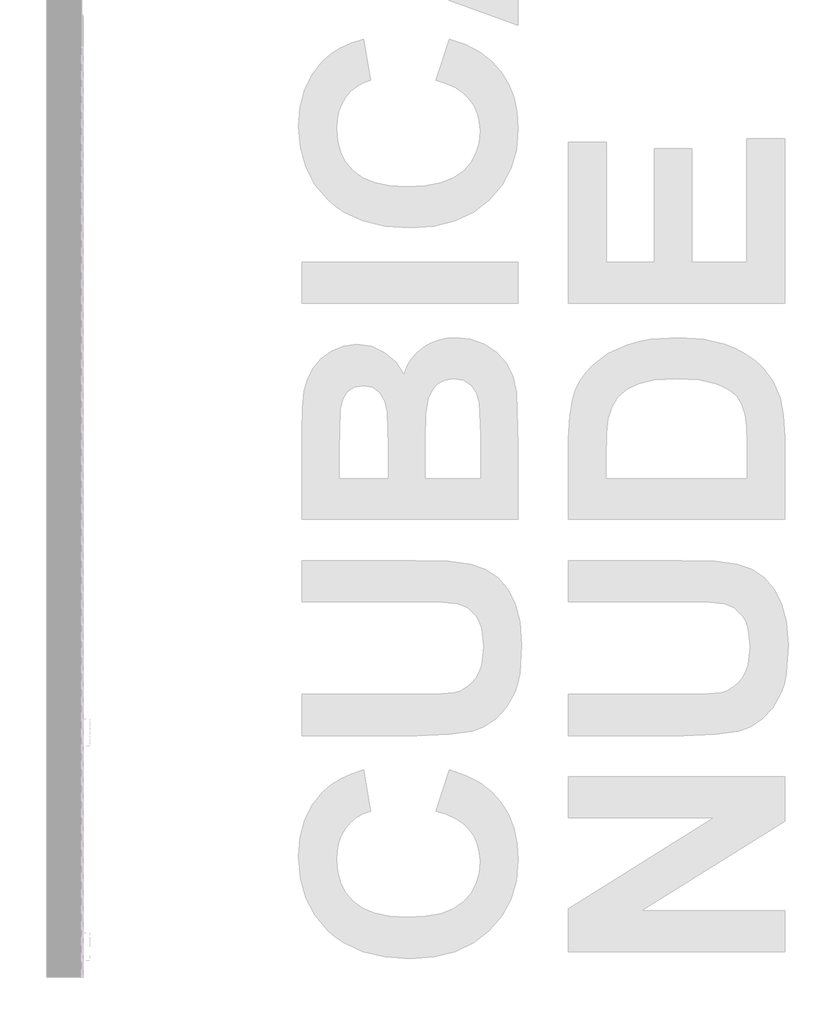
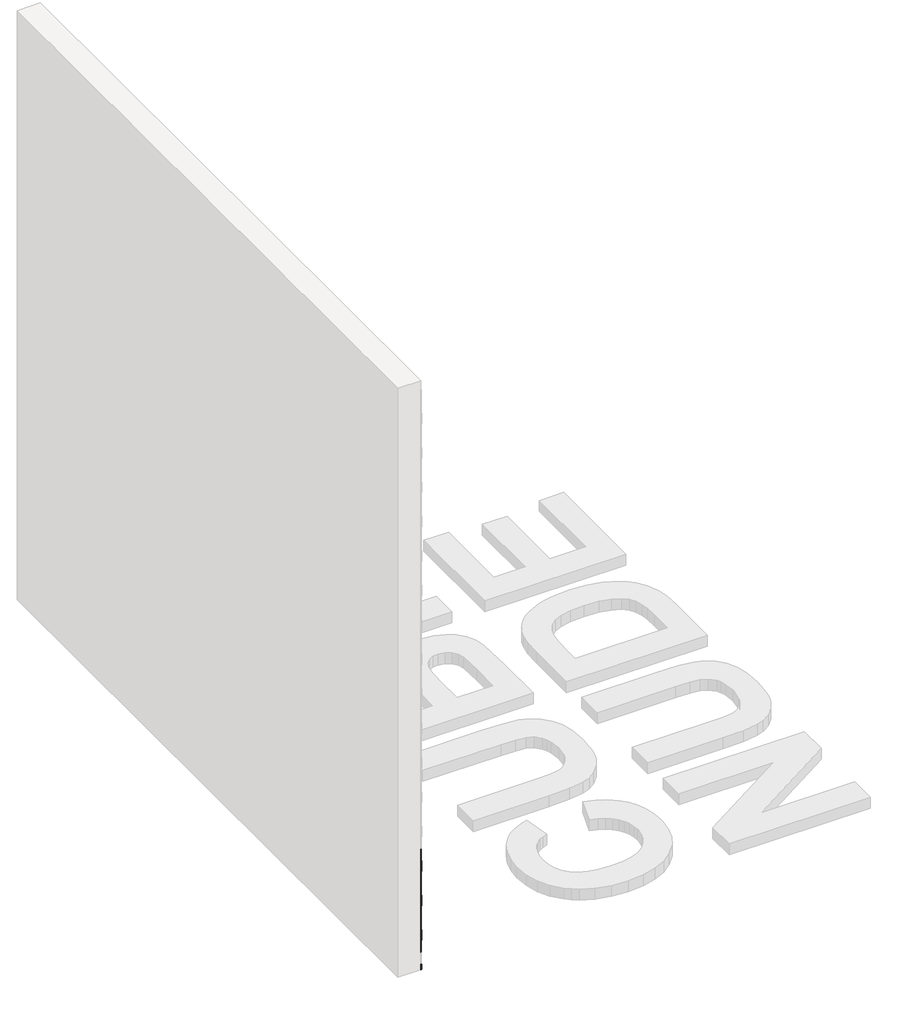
# One storey, part 49 of 121: 144 proxies.
"""IFC4 building model written with IfcOpenShell, lengths in millimetres."""

from ifc_helpers import new_model, si_unit, origin, place, context, project, spatial, transform, mapped, element, save
from components import generic_models_b2b2c5c1, generic_models_9bf73f6f, generic_models_5d175859, generic_models_95f85f1d, generic_models_021229c9, generic_models_45888c4d

model = new_model("IFC4")

# Units and contexts
model_context = context("Model", 3, world=origin())
ifc_project = project(units=[si_unit("LENGTHUNIT", "METRE", prefix="MILLI")], contexts=[model_context])

# Site, building, storey
site = spatial("IfcSite", under=ifc_project)
building = spatial("IfcBuilding", under=site)
storey = spatial("IfcBuildingStorey", under=building, Name="PORTOBELLO - SHOWROOM", Elevation=0.0)

# Proxies
placement = place(None, origin())
generic_models_shape = generic_models_b2b2c5c1(model_context)
element("IfcBuildingElementProxy", 1, Name="PBSHOP - CUBICA NUDE 4,8X8,3 : CUBICA NUDE - POSIÇÃO 01", ObjectType="PBSHOP - CUBICA NUDE 4,8X8,3 : CUBICA NUDE - POSIÇÃO 01", at=placement, inside=storey, context=model_context, shape_type="MappedRepresentation", body=[
    mapped(generic_models_shape, transform((150369.5341846, 6441.9673802, 118.3568052), x_axis=(0.0, 1.0, 0.0), y_axis=(0.0, 0.0, 1.0), z_axis=(1.0, 0.0, 0.0))),
])
element("IfcBuildingElementProxy", 2, Name="PBSHOP - CUBICA NUDE 4,8X8,3 : CUBICA NUDE - POSIÇÃO 01", ObjectType="PBSHOP - CUBICA NUDE 4,8X8,3 : CUBICA NUDE - POSIÇÃO 01", at=placement, inside=storey, context=model_context, shape_type="MappedRepresentation", body=[
    mapped(generic_models_shape, transform((150369.5341846, 6532.8066494, 118.3568052), x_axis=(0.0, 1.0, 0.0), y_axis=(0.0, 0.0, 1.0), z_axis=(1.0, 0.0, 0.0))),
])
element("IfcBuildingElementProxy", 3, Name="PBSHOP - CUBICA NUDE 4,8X8,3 : CUBICA NUDE - POSIÇÃO 01", ObjectType="PBSHOP - CUBICA NUDE 4,8X8,3 : CUBICA NUDE - POSIÇÃO 01", at=placement, inside=storey, context=model_context, shape_type="MappedRepresentation", body=[
    mapped(generic_models_shape, transform((150369.5341846, 6623.6459187, 118.3568052), x_axis=(0.0, 1.0, 0.0), y_axis=(0.0, 0.0, 1.0), z_axis=(1.0, 0.0, 0.0))),
])
element("IfcBuildingElementProxy", 4, Name="PBSHOP - CUBICA NUDE 4,8X8,3 : CUBICA NUDE - POSIÇÃO 01", ObjectType="PBSHOP - CUBICA NUDE 4,8X8,3 : CUBICA NUDE - POSIÇÃO 01", at=placement, inside=storey, context=model_context, shape_type="MappedRepresentation", body=[
    mapped(generic_models_shape, transform((150369.5341846, 6714.4851879, 118.3568052), x_axis=(0.0, 1.0, 0.0), y_axis=(0.0, 0.0, 1.0), z_axis=(1.0, 0.0, 0.0))),
])
element("IfcBuildingElementProxy", 5, Name="PBSHOP - CUBICA NUDE 4,8X8,3 : CUBICA NUDE - POSIÇÃO 01", ObjectType="PBSHOP - CUBICA NUDE 4,8X8,3 : CUBICA NUDE - POSIÇÃO 01", at=placement, inside=storey, context=model_context, shape_type="MappedRepresentation", body=[
    mapped(generic_models_shape, transform((150369.5341846, 6805.3244572, 118.3568052), x_axis=(0.0, 1.0, 0.0), y_axis=(0.0, 0.0, 1.0), z_axis=(1.0, 0.0, 0.0))),
])
element("IfcBuildingElementProxy", 6, Name="PBSHOP - CUBICA NUDE 4,8X8,3 : CUBICA NUDE - POSIÇÃO 01", ObjectType="PBSHOP - CUBICA NUDE 4,8X8,3 : CUBICA NUDE - POSIÇÃO 01", at=placement, inside=storey, context=model_context, shape_type="MappedRepresentation", body=[
    mapped(generic_models_shape, transform((150369.5341846, 6896.1637264, 118.3568052), x_axis=(0.0, 1.0, 0.0), y_axis=(0.0, 0.0, 1.0), z_axis=(1.0, 0.0, 0.0))),
])
element("IfcBuildingElementProxy", 7, Name="PBSHOP - CUBICA NUDE 4,8X8,3 : CUBICA NUDE - POSIÇÃO 01", ObjectType="PBSHOP - CUBICA NUDE 4,8X8,3 : CUBICA NUDE - POSIÇÃO 01", at=placement, inside=storey, context=model_context, shape_type="MappedRepresentation", body=[
    mapped(generic_models_shape, transform((150369.5341846, 6987.0029957, 118.3568052), x_axis=(0.0, 1.0, 0.0), y_axis=(0.0, 0.0, 1.0), z_axis=(1.0, 0.0, 0.0))),
])
element("IfcBuildingElementProxy", 8, Name="PBSHOP - CUBICA NUDE 4,8X8,3 : CUBICA NUDE - POSIÇÃO 01", ObjectType="PBSHOP - CUBICA NUDE 4,8X8,3 : CUBICA NUDE - POSIÇÃO 01", at=placement, inside=storey, context=model_context, shape_type="MappedRepresentation", body=[
    mapped(generic_models_shape, transform((150369.5341846, 6396.5477456, 197.2914436), x_axis=(0.0, 1.0, 0.0), y_axis=(0.0, 0.0, 1.0), z_axis=(1.0, 0.0, 0.0))),
])
element("IfcBuildingElementProxy", 9, Name="PBSHOP - CUBICA NUDE 4,8X8,3 : CUBICA NUDE - POSIÇÃO 01", ObjectType="PBSHOP - CUBICA NUDE 4,8X8,3 : CUBICA NUDE - POSIÇÃO 01", at=placement, inside=storey, context=model_context, shape_type="MappedRepresentation", body=[
    mapped(generic_models_shape, transform((150369.5341846, 6487.3870148, 197.2914436), x_axis=(0.0, 1.0, 0.0), y_axis=(0.0, 0.0, 1.0), z_axis=(1.0, 0.0, 0.0))),
])
element("IfcBuildingElementProxy", 10, Name="PBSHOP - CUBICA NUDE 4,8X8,3 : CUBICA NUDE - POSIÇÃO 01", ObjectType="PBSHOP - CUBICA NUDE 4,8X8,3 : CUBICA NUDE - POSIÇÃO 01", at=placement, inside=storey, context=model_context, shape_type="MappedRepresentation", body=[
    mapped(generic_models_shape, transform((150369.5341846, 6578.2262841, 197.2914436), x_axis=(0.0, 1.0, 0.0), y_axis=(0.0, 0.0, 1.0), z_axis=(1.0, 0.0, 0.0))),
])
element("IfcBuildingElementProxy", 11, Name="PBSHOP - CUBICA NUDE 4,8X8,3 : CUBICA NUDE - POSIÇÃO 01", ObjectType="PBSHOP - CUBICA NUDE 4,8X8,3 : CUBICA NUDE - POSIÇÃO 01", at=placement, inside=storey, context=model_context, shape_type="MappedRepresentation", body=[
    mapped(generic_models_shape, transform((150369.5341846, 6669.0655533, 197.2914436), x_axis=(0.0, 1.0, 0.0), y_axis=(0.0, 0.0, 1.0), z_axis=(1.0, 0.0, 0.0))),
])
element("IfcBuildingElementProxy", 12, Name="PBSHOP - CUBICA NUDE 4,8X8,3 : CUBICA NUDE - POSIÇÃO 01", ObjectType="PBSHOP - CUBICA NUDE 4,8X8,3 : CUBICA NUDE - POSIÇÃO 01", at=placement, inside=storey, context=model_context, shape_type="MappedRepresentation", body=[
    mapped(generic_models_shape, transform((150369.5341846, 6759.9048225, 197.2914436), x_axis=(0.0, 1.0, 0.0), y_axis=(0.0, 0.0, 1.0), z_axis=(1.0, 0.0, 0.0))),
])
element("IfcBuildingElementProxy", 13, Name="PBSHOP - CUBICA NUDE 4,8X8,3 : CUBICA NUDE - POSIÇÃO 01", ObjectType="PBSHOP - CUBICA NUDE 4,8X8,3 : CUBICA NUDE - POSIÇÃO 01", at=placement, inside=storey, context=model_context, shape_type="MappedRepresentation", body=[
    mapped(generic_models_shape, transform((150369.5341846, 6850.7440918, 197.2914436), x_axis=(0.0, 1.0, 0.0), y_axis=(0.0, 0.0, 1.0), z_axis=(1.0, 0.0, 0.0))),
])
element("IfcBuildingElementProxy", 14, Name="PBSHOP - CUBICA NUDE 4,8X8,3 : CUBICA NUDE - POSIÇÃO 01", ObjectType="PBSHOP - CUBICA NUDE 4,8X8,3 : CUBICA NUDE - POSIÇÃO 01", at=placement, inside=storey, context=model_context, shape_type="MappedRepresentation", body=[
    mapped(generic_models_shape, transform((150369.5341846, 6941.583361, 197.2914436), x_axis=(0.0, 1.0, 0.0), y_axis=(0.0, 0.0, 1.0), z_axis=(1.0, 0.0, 0.0))),
])
element("IfcBuildingElementProxy", 15, Name="PBSHOP - CUBICA NUDE 4,8X8,3 : CUBICA NUDE - POSIÇÃO 01", ObjectType="PBSHOP - CUBICA NUDE 4,8X8,3 : CUBICA NUDE - POSIÇÃO 01", at=placement, inside=storey, context=model_context, shape_type="MappedRepresentation", body=[
    mapped(generic_models_shape, transform((150369.5341846, 6441.9673802, 276.2260819), x_axis=(0.0, 1.0, 0.0), y_axis=(0.0, 0.0, 1.0), z_axis=(1.0, 0.0, 0.0))),
])
element("IfcBuildingElementProxy", 16, Name="PBSHOP - CUBICA NUDE 4,8X8,3 : CUBICA NUDE - POSIÇÃO 01", ObjectType="PBSHOP - CUBICA NUDE 4,8X8,3 : CUBICA NUDE - POSIÇÃO 01", at=placement, inside=storey, context=model_context, shape_type="MappedRepresentation", body=[
    mapped(generic_models_shape, transform((150369.5341846, 6532.8066494, 276.2260819), x_axis=(0.0, 1.0, 0.0), y_axis=(0.0, 0.0, 1.0), z_axis=(1.0, 0.0, 0.0))),
])
element("IfcBuildingElementProxy", 17, Name="PBSHOP - CUBICA NUDE 4,8X8,3 : CUBICA NUDE - POSIÇÃO 01", ObjectType="PBSHOP - CUBICA NUDE 4,8X8,3 : CUBICA NUDE - POSIÇÃO 01", at=placement, inside=storey, context=model_context, shape_type="MappedRepresentation", body=[
    mapped(generic_models_shape, transform((150369.5341846, 6623.6459187, 276.2260819), x_axis=(0.0, 1.0, 0.0), y_axis=(0.0, 0.0, 1.0), z_axis=(1.0, 0.0, 0.0))),
])
element("IfcBuildingElementProxy", 18, Name="PBSHOP - CUBICA NUDE 4,8X8,3 : CUBICA NUDE - POSIÇÃO 01", ObjectType="PBSHOP - CUBICA NUDE 4,8X8,3 : CUBICA NUDE - POSIÇÃO 01", at=placement, inside=storey, context=model_context, shape_type="MappedRepresentation", body=[
    mapped(generic_models_shape, transform((150369.5341846, 6714.4851879, 276.2260819), x_axis=(0.0, 1.0, 0.0), y_axis=(0.0, 0.0, 1.0), z_axis=(1.0, 0.0, 0.0))),
])
element("IfcBuildingElementProxy", 19, Name="PBSHOP - CUBICA NUDE 4,8X8,3 : CUBICA NUDE - POSIÇÃO 01", ObjectType="PBSHOP - CUBICA NUDE 4,8X8,3 : CUBICA NUDE - POSIÇÃO 01", at=placement, inside=storey, context=model_context, shape_type="MappedRepresentation", body=[
    mapped(generic_models_shape, transform((150369.5341846, 6805.3244572, 276.2260819), x_axis=(0.0, 1.0, 0.0), y_axis=(0.0, 0.0, 1.0), z_axis=(1.0, 0.0, 0.0))),
])
element("IfcBuildingElementProxy", 20, Name="PBSHOP - CUBICA NUDE 4,8X8,3 : CUBICA NUDE - POSIÇÃO 01", ObjectType="PBSHOP - CUBICA NUDE 4,8X8,3 : CUBICA NUDE - POSIÇÃO 01", at=placement, inside=storey, context=model_context, shape_type="MappedRepresentation", body=[
    mapped(generic_models_shape, transform((150369.5341846, 6896.1637264, 276.2260819), x_axis=(0.0, 1.0, 0.0), y_axis=(0.0, 0.0, 1.0), z_axis=(1.0, 0.0, 0.0))),
])
element("IfcBuildingElementProxy", 21, Name="PBSHOP - CUBICA NUDE 4,8X8,3 : CUBICA NUDE - POSIÇÃO 01", ObjectType="PBSHOP - CUBICA NUDE 4,8X8,3 : CUBICA NUDE - POSIÇÃO 01", at=placement, inside=storey, context=model_context, shape_type="MappedRepresentation", body=[
    mapped(generic_models_shape, transform((150369.5341846, 6987.0029957, 276.2260819), x_axis=(0.0, 1.0, 0.0), y_axis=(0.0, 0.0, 1.0), z_axis=(1.0, 0.0, 0.0))),
])
element("IfcBuildingElementProxy", 22, Name="PBSHOP - CUBICA NUDE 4,8X8,3 : CUBICA NUDE - POSIÇÃO 01", ObjectType="PBSHOP - CUBICA NUDE 4,8X8,3 : CUBICA NUDE - POSIÇÃO 01", at=placement, inside=storey, context=model_context, shape_type="MappedRepresentation", body=[
    mapped(generic_models_shape, transform((150369.5341846, 6396.5477456, 355.1607203), x_axis=(0.0, 1.0, 0.0), y_axis=(0.0, 0.0, 1.0), z_axis=(1.0, 0.0, 0.0))),
])
element("IfcBuildingElementProxy", 23, Name="PBSHOP - CUBICA NUDE 4,8X8,3 : CUBICA NUDE - POSIÇÃO 01", ObjectType="PBSHOP - CUBICA NUDE 4,8X8,3 : CUBICA NUDE - POSIÇÃO 01", at=placement, inside=storey, context=model_context, shape_type="MappedRepresentation", body=[
    mapped(generic_models_shape, transform((150369.5341846, 6487.3870148, 355.1607203), x_axis=(0.0, 1.0, 0.0), y_axis=(0.0, 0.0, 1.0), z_axis=(1.0, 0.0, 0.0))),
])
element("IfcBuildingElementProxy", 24, Name="PBSHOP - CUBICA NUDE 4,8X8,3 : CUBICA NUDE - POSIÇÃO 01", ObjectType="PBSHOP - CUBICA NUDE 4,8X8,3 : CUBICA NUDE - POSIÇÃO 01", at=placement, inside=storey, context=model_context, shape_type="MappedRepresentation", body=[
    mapped(generic_models_shape, transform((150369.5341846, 6578.2262841, 355.1607203), x_axis=(0.0, 1.0, 0.0), y_axis=(0.0, 0.0, 1.0), z_axis=(1.0, 0.0, 0.0))),
])
element("IfcBuildingElementProxy", 25, Name="PBSHOP - CUBICA NUDE 4,8X8,3 : CUBICA NUDE - POSIÇÃO 01", ObjectType="PBSHOP - CUBICA NUDE 4,8X8,3 : CUBICA NUDE - POSIÇÃO 01", at=placement, inside=storey, context=model_context, shape_type="MappedRepresentation", body=[
    mapped(generic_models_shape, transform((150369.5341846, 6669.0655533, 355.1607203), x_axis=(0.0, 1.0, 0.0), y_axis=(0.0, 0.0, 1.0), z_axis=(1.0, 0.0, 0.0))),
])
element("IfcBuildingElementProxy", 26, Name="PBSHOP - CUBICA NUDE 4,8X8,3 : CUBICA NUDE - POSIÇÃO 01", ObjectType="PBSHOP - CUBICA NUDE 4,8X8,3 : CUBICA NUDE - POSIÇÃO 01", at=placement, inside=storey, context=model_context, shape_type="MappedRepresentation", body=[
    mapped(generic_models_shape, transform((150369.5341846, 6759.9048225, 355.1607203), x_axis=(0.0, 1.0, 0.0), y_axis=(0.0, 0.0, 1.0), z_axis=(1.0, 0.0, 0.0))),
])
element("IfcBuildingElementProxy", 27, Name="PBSHOP - CUBICA NUDE 4,8X8,3 : CUBICA NUDE - POSIÇÃO 01", ObjectType="PBSHOP - CUBICA NUDE 4,8X8,3 : CUBICA NUDE - POSIÇÃO 01", at=placement, inside=storey, context=model_context, shape_type="MappedRepresentation", body=[
    mapped(generic_models_shape, transform((150369.5341846, 6850.7440918, 355.1607203), x_axis=(0.0, 1.0, 0.0), y_axis=(0.0, 0.0, 1.0), z_axis=(1.0, 0.0, 0.0))),
])
element("IfcBuildingElementProxy", 28, Name="PBSHOP - CUBICA NUDE 4,8X8,3 : CUBICA NUDE - POSIÇÃO 01", ObjectType="PBSHOP - CUBICA NUDE 4,8X8,3 : CUBICA NUDE - POSIÇÃO 01", at=placement, inside=storey, context=model_context, shape_type="MappedRepresentation", body=[
    mapped(generic_models_shape, transform((150369.5341846, 6941.583361, 355.1607203), x_axis=(0.0, 1.0, 0.0), y_axis=(0.0, 0.0, 1.0), z_axis=(1.0, 0.0, 0.0))),
])
element("IfcBuildingElementProxy", 29, Name="PBSHOP - CUBICA NUDE 4,8X8,3 : CUBICA NUDE - POSIÇÃO 01", ObjectType="PBSHOP - CUBICA NUDE 4,8X8,3 : CUBICA NUDE - POSIÇÃO 01", at=placement, inside=storey, context=model_context, shape_type="MappedRepresentation", body=[
    mapped(generic_models_shape, transform((150369.5341846, 6441.9673802, 434.0953587), x_axis=(0.0, 1.0, 0.0), y_axis=(0.0, 0.0, 1.0), z_axis=(1.0, 0.0, 0.0))),
])
element("IfcBuildingElementProxy", 30, Name="PBSHOP - CUBICA NUDE 4,8X8,3 : CUBICA NUDE - POSIÇÃO 01", ObjectType="PBSHOP - CUBICA NUDE 4,8X8,3 : CUBICA NUDE - POSIÇÃO 01", at=placement, inside=storey, context=model_context, shape_type="MappedRepresentation", body=[
    mapped(generic_models_shape, transform((150369.5341846, 6532.8066494, 434.0953587), x_axis=(0.0, 1.0, 0.0), y_axis=(0.0, 0.0, 1.0), z_axis=(1.0, 0.0, 0.0))),
])
element("IfcBuildingElementProxy", 31, Name="PBSHOP - CUBICA NUDE 4,8X8,3 : CUBICA NUDE - POSIÇÃO 01", ObjectType="PBSHOP - CUBICA NUDE 4,8X8,3 : CUBICA NUDE - POSIÇÃO 01", at=placement, inside=storey, context=model_context, shape_type="MappedRepresentation", body=[
    mapped(generic_models_shape, transform((150369.5341846, 6623.6459187, 434.0953587), x_axis=(0.0, 1.0, 0.0), y_axis=(0.0, 0.0, 1.0), z_axis=(1.0, 0.0, 0.0))),
])
element("IfcBuildingElementProxy", 32, Name="PBSHOP - CUBICA NUDE 4,8X8,3 : CUBICA NUDE - POSIÇÃO 01", ObjectType="PBSHOP - CUBICA NUDE 4,8X8,3 : CUBICA NUDE - POSIÇÃO 01", at=placement, inside=storey, context=model_context, shape_type="MappedRepresentation", body=[
    mapped(generic_models_shape, transform((150369.5341846, 6714.4851879, 434.0953587), x_axis=(0.0, 1.0, 0.0), y_axis=(0.0, 0.0, 1.0), z_axis=(1.0, 0.0, 0.0))),
])
element("IfcBuildingElementProxy", 33, Name="PBSHOP - CUBICA NUDE 4,8X8,3 : CUBICA NUDE - POSIÇÃO 01", ObjectType="PBSHOP - CUBICA NUDE 4,8X8,3 : CUBICA NUDE - POSIÇÃO 01", at=placement, inside=storey, context=model_context, shape_type="MappedRepresentation", body=[
    mapped(generic_models_shape, transform((150369.5341846, 6805.3244572, 434.0953587), x_axis=(0.0, 1.0, 0.0), y_axis=(0.0, 0.0, 1.0), z_axis=(1.0, 0.0, 0.0))),
])
element("IfcBuildingElementProxy", 34, Name="PBSHOP - CUBICA NUDE 4,8X8,3 : CUBICA NUDE - POSIÇÃO 01", ObjectType="PBSHOP - CUBICA NUDE 4,8X8,3 : CUBICA NUDE - POSIÇÃO 01", at=placement, inside=storey, context=model_context, shape_type="MappedRepresentation", body=[
    mapped(generic_models_shape, transform((150369.5341846, 6896.1637264, 434.0953587), x_axis=(0.0, 1.0, 0.0), y_axis=(0.0, 0.0, 1.0), z_axis=(1.0, 0.0, 0.0))),
])
element("IfcBuildingElementProxy", 35, Name="PBSHOP - CUBICA NUDE 4,8X8,3 : CUBICA NUDE - POSIÇÃO 01", ObjectType="PBSHOP - CUBICA NUDE 4,8X8,3 : CUBICA NUDE - POSIÇÃO 01", at=placement, inside=storey, context=model_context, shape_type="MappedRepresentation", body=[
    mapped(generic_models_shape, transform((150369.5341846, 6987.0029957, 434.0953587), x_axis=(0.0, 1.0, 0.0), y_axis=(0.0, 0.0, 1.0), z_axis=(1.0, 0.0, 0.0))),
])
element("IfcBuildingElementProxy", 36, Name="PBSHOP - CUBICA NUDE 4,8X8,3 : CUBICA NUDE - POSIÇÃO 01", ObjectType="PBSHOP - CUBICA NUDE 4,8X8,3 : CUBICA NUDE - POSIÇÃO 01", at=placement, inside=storey, context=model_context, shape_type="MappedRepresentation", body=[
    mapped(generic_models_shape, transform((150369.5341846, 6396.5477456, 513.0299971), x_axis=(0.0, 1.0, 0.0), y_axis=(0.0, 0.0, 1.0), z_axis=(1.0, 0.0, 0.0))),
])
element("IfcBuildingElementProxy", 37, Name="PBSHOP - CUBICA NUDE 4,8X8,3 : CUBICA NUDE - POSIÇÃO 01", ObjectType="PBSHOP - CUBICA NUDE 4,8X8,3 : CUBICA NUDE - POSIÇÃO 01", at=placement, inside=storey, context=model_context, shape_type="MappedRepresentation", body=[
    mapped(generic_models_shape, transform((150369.5341846, 6487.3870148, 513.0299971), x_axis=(0.0, 1.0, 0.0), y_axis=(0.0, 0.0, 1.0), z_axis=(1.0, 0.0, 0.0))),
])
element("IfcBuildingElementProxy", 38, Name="PBSHOP - CUBICA NUDE 4,8X8,3 : CUBICA NUDE - POSIÇÃO 01", ObjectType="PBSHOP - CUBICA NUDE 4,8X8,3 : CUBICA NUDE - POSIÇÃO 01", at=placement, inside=storey, context=model_context, shape_type="MappedRepresentation", body=[
    mapped(generic_models_shape, transform((150369.5341846, 6578.2262841, 513.0299971), x_axis=(0.0, 1.0, 0.0), y_axis=(0.0, 0.0, 1.0), z_axis=(1.0, 0.0, 0.0))),
])
element("IfcBuildingElementProxy", 39, Name="PBSHOP - CUBICA NUDE 4,8X8,3 : CUBICA NUDE - POSIÇÃO 01", ObjectType="PBSHOP - CUBICA NUDE 4,8X8,3 : CUBICA NUDE - POSIÇÃO 01", at=placement, inside=storey, context=model_context, shape_type="MappedRepresentation", body=[
    mapped(generic_models_shape, transform((150369.5341846, 6669.0655533, 513.0299971), x_axis=(0.0, 1.0, 0.0), y_axis=(0.0, 0.0, 1.0), z_axis=(1.0, 0.0, 0.0))),
])
element("IfcBuildingElementProxy", 40, Name="PBSHOP - CUBICA NUDE 4,8X8,3 : CUBICA NUDE - POSIÇÃO 01", ObjectType="PBSHOP - CUBICA NUDE 4,8X8,3 : CUBICA NUDE - POSIÇÃO 01", at=placement, inside=storey, context=model_context, shape_type="MappedRepresentation", body=[
    mapped(generic_models_shape, transform((150369.5341846, 6759.9048225, 513.0299971), x_axis=(0.0, 1.0, 0.0), y_axis=(0.0, 0.0, 1.0), z_axis=(1.0, 0.0, 0.0))),
])
element("IfcBuildingElementProxy", 41, Name="PBSHOP - CUBICA NUDE 4,8X8,3 : CUBICA NUDE - POSIÇÃO 01", ObjectType="PBSHOP - CUBICA NUDE 4,8X8,3 : CUBICA NUDE - POSIÇÃO 01", at=placement, inside=storey, context=model_context, shape_type="MappedRepresentation", body=[
    mapped(generic_models_shape, transform((150369.5341846, 6850.7440918, 513.0299971), x_axis=(0.0, 1.0, 0.0), y_axis=(0.0, 0.0, 1.0), z_axis=(1.0, 0.0, 0.0))),
])
element("IfcBuildingElementProxy", 42, Name="PBSHOP - CUBICA NUDE 4,8X8,3 : CUBICA NUDE - POSIÇÃO 01", ObjectType="PBSHOP - CUBICA NUDE 4,8X8,3 : CUBICA NUDE - POSIÇÃO 01", at=placement, inside=storey, context=model_context, shape_type="MappedRepresentation", body=[
    mapped(generic_models_shape, transform((150369.5341846, 6941.583361, 513.0299971), x_axis=(0.0, 1.0, 0.0), y_axis=(0.0, 0.0, 1.0), z_axis=(1.0, 0.0, 0.0))),
])
element("IfcBuildingElementProxy", 43, Name="PBSHOP - CUBICA NUDE 4,8X8,3 : CUBICA NUDE - POSIÇÃO 01", ObjectType="PBSHOP - CUBICA NUDE 4,8X8,3 : CUBICA NUDE - POSIÇÃO 01", at=placement, inside=storey, context=model_context, shape_type="MappedRepresentation", body=[
    mapped(generic_models_shape, transform((150369.5341846, 6441.9673802, 591.9646354), x_axis=(0.0, 1.0, 0.0), y_axis=(0.0, 0.0, 1.0), z_axis=(1.0, 0.0, 0.0))),
])
element("IfcBuildingElementProxy", 44, Name="PBSHOP - CUBICA NUDE 4,8X8,3 : CUBICA NUDE - POSIÇÃO 01", ObjectType="PBSHOP - CUBICA NUDE 4,8X8,3 : CUBICA NUDE - POSIÇÃO 01", at=placement, inside=storey, context=model_context, shape_type="MappedRepresentation", body=[
    mapped(generic_models_shape, transform((150369.5341846, 6532.8066494, 591.9646354), x_axis=(0.0, 1.0, 0.0), y_axis=(0.0, 0.0, 1.0), z_axis=(1.0, 0.0, 0.0))),
])
element("IfcBuildingElementProxy", 45, Name="PBSHOP - CUBICA NUDE 4,8X8,3 : CUBICA NUDE - POSIÇÃO 01", ObjectType="PBSHOP - CUBICA NUDE 4,8X8,3 : CUBICA NUDE - POSIÇÃO 01", at=placement, inside=storey, context=model_context, shape_type="MappedRepresentation", body=[
    mapped(generic_models_shape, transform((150369.5341846, 6623.6459187, 591.9646354), x_axis=(0.0, 1.0, 0.0), y_axis=(0.0, 0.0, 1.0), z_axis=(1.0, 0.0, 0.0))),
])
element("IfcBuildingElementProxy", 46, Name="PBSHOP - CUBICA NUDE 4,8X8,3 : CUBICA NUDE - POSIÇÃO 01", ObjectType="PBSHOP - CUBICA NUDE 4,8X8,3 : CUBICA NUDE - POSIÇÃO 01", at=placement, inside=storey, context=model_context, shape_type="MappedRepresentation", body=[
    mapped(generic_models_shape, transform((150369.5341846, 6714.4851879, 591.9646354), x_axis=(0.0, 1.0, 0.0), y_axis=(0.0, 0.0, 1.0), z_axis=(1.0, 0.0, 0.0))),
])
element("IfcBuildingElementProxy", 47, Name="PBSHOP - CUBICA NUDE 4,8X8,3 : CUBICA NUDE - POSIÇÃO 01", ObjectType="PBSHOP - CUBICA NUDE 4,8X8,3 : CUBICA NUDE - POSIÇÃO 01", at=placement, inside=storey, context=model_context, shape_type="MappedRepresentation", body=[
    mapped(generic_models_shape, transform((150369.5341846, 6805.3244572, 591.9646354), x_axis=(0.0, 1.0, 0.0), y_axis=(0.0, 0.0, 1.0), z_axis=(1.0, 0.0, 0.0))),
])
element("IfcBuildingElementProxy", 48, Name="PBSHOP - CUBICA NUDE 4,8X8,3 : CUBICA NUDE - POSIÇÃO 01", ObjectType="PBSHOP - CUBICA NUDE 4,8X8,3 : CUBICA NUDE - POSIÇÃO 01", at=placement, inside=storey, context=model_context, shape_type="MappedRepresentation", body=[
    mapped(generic_models_shape, transform((150369.5341846, 6896.1637264, 591.9646354), x_axis=(0.0, 1.0, 0.0), y_axis=(0.0, 0.0, 1.0), z_axis=(1.0, 0.0, 0.0))),
])
generic_models_2_shape = generic_models_9bf73f6f(model_context)
element("IfcBuildingElementProxy", 49, Name="PBSHOP - CUBICA NUDE 4,8X8,3 : CUBICA NUDE - POSIÇÃO 03", ObjectType="PBSHOP - CUBICA NUDE 4,8X8,3 : CUBICA NUDE - POSIÇÃO 03", at=placement, inside=storey, context=model_context, shape_type="MappedRepresentation", body=[
    mapped(generic_models_2_shape, transform((150369.5341846, 6419.259722, 78.8482756), x_axis=(0.0, 1.0, 0.0), y_axis=(0.0, 0.0, 1.0), z_axis=(1.0, 0.0, 0.0))),
])
element("IfcBuildingElementProxy", 50, Name="PBSHOP - CUBICA NUDE 4,8X8,3 : CUBICA NUDE - POSIÇÃO 03", ObjectType="PBSHOP - CUBICA NUDE 4,8X8,3 : CUBICA NUDE - POSIÇÃO 03", at=placement, inside=storey, context=model_context, shape_type="MappedRepresentation", body=[
    mapped(generic_models_2_shape, transform((150369.5341846, 6510.0989913, 78.8482756), x_axis=(0.0, 1.0, 0.0), y_axis=(0.0, 0.0, 1.0), z_axis=(1.0, 0.0, 0.0))),
])
element("IfcBuildingElementProxy", 51, Name="PBSHOP - CUBICA NUDE 4,8X8,3 : CUBICA NUDE - POSIÇÃO 03", ObjectType="PBSHOP - CUBICA NUDE 4,8X8,3 : CUBICA NUDE - POSIÇÃO 03", at=placement, inside=storey, context=model_context, shape_type="MappedRepresentation", body=[
    mapped(generic_models_2_shape, transform((150369.5341846, 6600.9382605, 78.8482756), x_axis=(0.0, 1.0, 0.0), y_axis=(0.0, 0.0, 1.0), z_axis=(1.0, 0.0, 0.0))),
])
element("IfcBuildingElementProxy", 52, Name="PBSHOP - CUBICA NUDE 4,8X8,3 : CUBICA NUDE - POSIÇÃO 03", ObjectType="PBSHOP - CUBICA NUDE 4,8X8,3 : CUBICA NUDE - POSIÇÃO 03", at=placement, inside=storey, context=model_context, shape_type="MappedRepresentation", body=[
    mapped(generic_models_2_shape, transform((150369.5341846, 6691.7775298, 78.8482756), x_axis=(0.0, 1.0, 0.0), y_axis=(0.0, 0.0, 1.0), z_axis=(1.0, 0.0, 0.0))),
])
element("IfcBuildingElementProxy", 53, Name="PBSHOP - CUBICA NUDE 4,8X8,3 : CUBICA NUDE - POSIÇÃO 03", ObjectType="PBSHOP - CUBICA NUDE 4,8X8,3 : CUBICA NUDE - POSIÇÃO 03", at=placement, inside=storey, context=model_context, shape_type="MappedRepresentation", body=[
    mapped(generic_models_2_shape, transform((150369.5341846, 6782.616799, 78.8482756), x_axis=(0.0, 1.0, 0.0), y_axis=(0.0, 0.0, 1.0), z_axis=(1.0, 0.0, 0.0))),
])
element("IfcBuildingElementProxy", 54, Name="PBSHOP - CUBICA NUDE 4,8X8,3 : CUBICA NUDE - POSIÇÃO 03", ObjectType="PBSHOP - CUBICA NUDE 4,8X8,3 : CUBICA NUDE - POSIÇÃO 03", at=placement, inside=storey, context=model_context, shape_type="MappedRepresentation", body=[
    mapped(generic_models_2_shape, transform((150369.5341846, 6873.4560683, 78.8482756), x_axis=(0.0, 1.0, 0.0), y_axis=(0.0, 0.0, 1.0), z_axis=(1.0, 0.0, 0.0))),
])
element("IfcBuildingElementProxy", 55, Name="PBSHOP - CUBICA NUDE 4,8X8,3 : CUBICA NUDE - POSIÇÃO 03", ObjectType="PBSHOP - CUBICA NUDE 4,8X8,3 : CUBICA NUDE - POSIÇÃO 03", at=placement, inside=storey, context=model_context, shape_type="MappedRepresentation", body=[
    mapped(generic_models_2_shape, transform((150369.5341846, 6964.2953375, 78.8482756), x_axis=(0.0, 1.0, 0.0), y_axis=(0.0, 0.0, 1.0), z_axis=(1.0, 0.0, 0.0))),
])
element("IfcBuildingElementProxy", 56, Name="PBSHOP - CUBICA NUDE 4,8X8,3 : CUBICA NUDE - POSIÇÃO 03", ObjectType="PBSHOP - CUBICA NUDE 4,8X8,3 : CUBICA NUDE - POSIÇÃO 03", at=placement, inside=storey, context=model_context, shape_type="MappedRepresentation", body=[
    mapped(generic_models_2_shape, transform((150369.5341846, 6464.6793567, 157.7829139), x_axis=(0.0, 1.0, 0.0), y_axis=(0.0, 0.0, 1.0), z_axis=(1.0, 0.0, 0.0))),
])
element("IfcBuildingElementProxy", 57, Name="PBSHOP - CUBICA NUDE 4,8X8,3 : CUBICA NUDE - POSIÇÃO 03", ObjectType="PBSHOP - CUBICA NUDE 4,8X8,3 : CUBICA NUDE - POSIÇÃO 03", at=placement, inside=storey, context=model_context, shape_type="MappedRepresentation", body=[
    mapped(generic_models_2_shape, transform((150369.5341846, 6555.5186259, 157.7829139), x_axis=(0.0, 1.0, 0.0), y_axis=(0.0, 0.0, 1.0), z_axis=(1.0, 0.0, 0.0))),
])
element("IfcBuildingElementProxy", 58, Name="PBSHOP - CUBICA NUDE 4,8X8,3 : CUBICA NUDE - POSIÇÃO 03", ObjectType="PBSHOP - CUBICA NUDE 4,8X8,3 : CUBICA NUDE - POSIÇÃO 03", at=placement, inside=storey, context=model_context, shape_type="MappedRepresentation", body=[
    mapped(generic_models_2_shape, transform((150369.5341846, 6646.3578952, 157.7829139), x_axis=(0.0, 1.0, 0.0), y_axis=(0.0, 0.0, 1.0), z_axis=(1.0, 0.0, 0.0))),
])
element("IfcBuildingElementProxy", 59, Name="PBSHOP - CUBICA NUDE 4,8X8,3 : CUBICA NUDE - POSIÇÃO 03", ObjectType="PBSHOP - CUBICA NUDE 4,8X8,3 : CUBICA NUDE - POSIÇÃO 03", at=placement, inside=storey, context=model_context, shape_type="MappedRepresentation", body=[
    mapped(generic_models_2_shape, transform((150369.5341846, 6737.1971644, 157.7829139), x_axis=(0.0, 1.0, 0.0), y_axis=(0.0, 0.0, 1.0), z_axis=(1.0, 0.0, 0.0))),
])
element("IfcBuildingElementProxy", 60, Name="PBSHOP - CUBICA NUDE 4,8X8,3 : CUBICA NUDE - POSIÇÃO 03", ObjectType="PBSHOP - CUBICA NUDE 4,8X8,3 : CUBICA NUDE - POSIÇÃO 03", at=placement, inside=storey, context=model_context, shape_type="MappedRepresentation", body=[
    mapped(generic_models_2_shape, transform((150369.5341846, 6828.0364336, 157.7829139), x_axis=(0.0, 1.0, 0.0), y_axis=(0.0, 0.0, 1.0), z_axis=(1.0, 0.0, 0.0))),
])
element("IfcBuildingElementProxy", 61, Name="PBSHOP - CUBICA NUDE 4,8X8,3 : CUBICA NUDE - POSIÇÃO 03", ObjectType="PBSHOP - CUBICA NUDE 4,8X8,3 : CUBICA NUDE - POSIÇÃO 03", at=placement, inside=storey, context=model_context, shape_type="MappedRepresentation", body=[
    mapped(generic_models_2_shape, transform((150369.5341846, 6918.8757029, 157.7829139), x_axis=(0.0, 1.0, 0.0), y_axis=(0.0, 0.0, 1.0), z_axis=(1.0, 0.0, 0.0))),
])
element("IfcBuildingElementProxy", 62, Name="PBSHOP - CUBICA NUDE 4,8X8,3 : CUBICA NUDE - POSIÇÃO 03", ObjectType="PBSHOP - CUBICA NUDE 4,8X8,3 : CUBICA NUDE - POSIÇÃO 03", at=placement, inside=storey, context=model_context, shape_type="MappedRepresentation", body=[
    mapped(generic_models_2_shape, transform((150369.5341846, 6419.259722, 236.7175523), x_axis=(0.0, 1.0, 0.0), y_axis=(0.0, 0.0, 1.0), z_axis=(1.0, 0.0, 0.0))),
])
element("IfcBuildingElementProxy", 63, Name="PBSHOP - CUBICA NUDE 4,8X8,3 : CUBICA NUDE - POSIÇÃO 03", ObjectType="PBSHOP - CUBICA NUDE 4,8X8,3 : CUBICA NUDE - POSIÇÃO 03", at=placement, inside=storey, context=model_context, shape_type="MappedRepresentation", body=[
    mapped(generic_models_2_shape, transform((150369.5341846, 6510.0989913, 236.7175523), x_axis=(0.0, 1.0, 0.0), y_axis=(0.0, 0.0, 1.0), z_axis=(1.0, 0.0, 0.0))),
])
element("IfcBuildingElementProxy", 64, Name="PBSHOP - CUBICA NUDE 4,8X8,3 : CUBICA NUDE - POSIÇÃO 03", ObjectType="PBSHOP - CUBICA NUDE 4,8X8,3 : CUBICA NUDE - POSIÇÃO 03", at=placement, inside=storey, context=model_context, shape_type="MappedRepresentation", body=[
    mapped(generic_models_2_shape, transform((150369.5341846, 6600.9382605, 236.7175523), x_axis=(0.0, 1.0, 0.0), y_axis=(0.0, 0.0, 1.0), z_axis=(1.0, 0.0, 0.0))),
])
element("IfcBuildingElementProxy", 65, Name="PBSHOP - CUBICA NUDE 4,8X8,3 : CUBICA NUDE - POSIÇÃO 03", ObjectType="PBSHOP - CUBICA NUDE 4,8X8,3 : CUBICA NUDE - POSIÇÃO 03", at=placement, inside=storey, context=model_context, shape_type="MappedRepresentation", body=[
    mapped(generic_models_2_shape, transform((150369.5341846, 6691.7775298, 236.7175523), x_axis=(0.0, 1.0, 0.0), y_axis=(0.0, 0.0, 1.0), z_axis=(1.0, 0.0, 0.0))),
])
element("IfcBuildingElementProxy", 66, Name="PBSHOP - CUBICA NUDE 4,8X8,3 : CUBICA NUDE - POSIÇÃO 03", ObjectType="PBSHOP - CUBICA NUDE 4,8X8,3 : CUBICA NUDE - POSIÇÃO 03", at=placement, inside=storey, context=model_context, shape_type="MappedRepresentation", body=[
    mapped(generic_models_2_shape, transform((150369.5341846, 6782.616799, 236.7175523), x_axis=(0.0, 1.0, 0.0), y_axis=(0.0, 0.0, 1.0), z_axis=(1.0, 0.0, 0.0))),
])
element("IfcBuildingElementProxy", 67, Name="PBSHOP - CUBICA NUDE 4,8X8,3 : CUBICA NUDE - POSIÇÃO 03", ObjectType="PBSHOP - CUBICA NUDE 4,8X8,3 : CUBICA NUDE - POSIÇÃO 03", at=placement, inside=storey, context=model_context, shape_type="MappedRepresentation", body=[
    mapped(generic_models_2_shape, transform((150369.5341846, 6873.4560683, 236.7175523), x_axis=(0.0, 1.0, 0.0), y_axis=(0.0, 0.0, 1.0), z_axis=(1.0, 0.0, 0.0))),
])
element("IfcBuildingElementProxy", 68, Name="PBSHOP - CUBICA NUDE 4,8X8,3 : CUBICA NUDE - POSIÇÃO 03", ObjectType="PBSHOP - CUBICA NUDE 4,8X8,3 : CUBICA NUDE - POSIÇÃO 03", at=placement, inside=storey, context=model_context, shape_type="MappedRepresentation", body=[
    mapped(generic_models_2_shape, transform((150369.5341846, 6964.2953375, 236.7175523), x_axis=(0.0, 1.0, 0.0), y_axis=(0.0, 0.0, 1.0), z_axis=(1.0, 0.0, 0.0))),
])
element("IfcBuildingElementProxy", 69, Name="PBSHOP - CUBICA NUDE 4,8X8,3 : CUBICA NUDE - POSIÇÃO 03", ObjectType="PBSHOP - CUBICA NUDE 4,8X8,3 : CUBICA NUDE - POSIÇÃO 03", at=placement, inside=storey, context=model_context, shape_type="MappedRepresentation", body=[
    mapped(generic_models_2_shape, transform((150369.5341846, 6464.6793567, 315.6521907), x_axis=(0.0, 1.0, 0.0), y_axis=(0.0, 0.0, 1.0), z_axis=(1.0, 0.0, 0.0))),
])
element("IfcBuildingElementProxy", 70, Name="PBSHOP - CUBICA NUDE 4,8X8,3 : CUBICA NUDE - POSIÇÃO 03", ObjectType="PBSHOP - CUBICA NUDE 4,8X8,3 : CUBICA NUDE - POSIÇÃO 03", at=placement, inside=storey, context=model_context, shape_type="MappedRepresentation", body=[
    mapped(generic_models_2_shape, transform((150369.5341846, 6555.5186259, 315.6521907), x_axis=(0.0, 1.0, 0.0), y_axis=(0.0, 0.0, 1.0), z_axis=(1.0, 0.0, 0.0))),
])
element("IfcBuildingElementProxy", 71, Name="PBSHOP - CUBICA NUDE 4,8X8,3 : CUBICA NUDE - POSIÇÃO 03", ObjectType="PBSHOP - CUBICA NUDE 4,8X8,3 : CUBICA NUDE - POSIÇÃO 03", at=placement, inside=storey, context=model_context, shape_type="MappedRepresentation", body=[
    mapped(generic_models_2_shape, transform((150369.5341846, 6646.3578952, 315.6521907), x_axis=(0.0, 1.0, 0.0), y_axis=(0.0, 0.0, 1.0), z_axis=(1.0, 0.0, 0.0))),
])
element("IfcBuildingElementProxy", 72, Name="PBSHOP - CUBICA NUDE 4,8X8,3 : CUBICA NUDE - POSIÇÃO 03", ObjectType="PBSHOP - CUBICA NUDE 4,8X8,3 : CUBICA NUDE - POSIÇÃO 03", at=placement, inside=storey, context=model_context, shape_type="MappedRepresentation", body=[
    mapped(generic_models_2_shape, transform((150369.5341846, 6737.1971644, 315.6521907), x_axis=(0.0, 1.0, 0.0), y_axis=(0.0, 0.0, 1.0), z_axis=(1.0, 0.0, 0.0))),
])
element("IfcBuildingElementProxy", 73, Name="PBSHOP - CUBICA NUDE 4,8X8,3 : CUBICA NUDE - POSIÇÃO 03", ObjectType="PBSHOP - CUBICA NUDE 4,8X8,3 : CUBICA NUDE - POSIÇÃO 03", at=placement, inside=storey, context=model_context, shape_type="MappedRepresentation", body=[
    mapped(generic_models_2_shape, transform((150369.5341846, 6828.0364336, 315.6521907), x_axis=(0.0, 1.0, 0.0), y_axis=(0.0, 0.0, 1.0), z_axis=(1.0, 0.0, 0.0))),
])
element("IfcBuildingElementProxy", 74, Name="PBSHOP - CUBICA NUDE 4,8X8,3 : CUBICA NUDE - POSIÇÃO 03", ObjectType="PBSHOP - CUBICA NUDE 4,8X8,3 : CUBICA NUDE - POSIÇÃO 03", at=placement, inside=storey, context=model_context, shape_type="MappedRepresentation", body=[
    mapped(generic_models_2_shape, transform((150369.5341846, 6918.8757029, 315.6521907), x_axis=(0.0, 1.0, 0.0), y_axis=(0.0, 0.0, 1.0), z_axis=(1.0, 0.0, 0.0))),
])
element("IfcBuildingElementProxy", 75, Name="PBSHOP - CUBICA NUDE 4,8X8,3 : CUBICA NUDE - POSIÇÃO 03", ObjectType="PBSHOP - CUBICA NUDE 4,8X8,3 : CUBICA NUDE - POSIÇÃO 03", at=placement, inside=storey, context=model_context, shape_type="MappedRepresentation", body=[
    mapped(generic_models_2_shape, transform((150369.5341846, 6419.259722, 394.5868291), x_axis=(0.0, 1.0, 0.0), y_axis=(0.0, 0.0, 1.0), z_axis=(1.0, 0.0, 0.0))),
])
element("IfcBuildingElementProxy", 76, Name="PBSHOP - CUBICA NUDE 4,8X8,3 : CUBICA NUDE - POSIÇÃO 03", ObjectType="PBSHOP - CUBICA NUDE 4,8X8,3 : CUBICA NUDE - POSIÇÃO 03", at=placement, inside=storey, context=model_context, shape_type="MappedRepresentation", body=[
    mapped(generic_models_2_shape, transform((150369.5341846, 6510.0989913, 394.5868291), x_axis=(0.0, 1.0, 0.0), y_axis=(0.0, 0.0, 1.0), z_axis=(1.0, 0.0, 0.0))),
])
element("IfcBuildingElementProxy", 77, Name="PBSHOP - CUBICA NUDE 4,8X8,3 : CUBICA NUDE - POSIÇÃO 03", ObjectType="PBSHOP - CUBICA NUDE 4,8X8,3 : CUBICA NUDE - POSIÇÃO 03", at=placement, inside=storey, context=model_context, shape_type="MappedRepresentation", body=[
    mapped(generic_models_2_shape, transform((150369.5341846, 6600.9382605, 394.5868291), x_axis=(0.0, 1.0, 0.0), y_axis=(0.0, 0.0, 1.0), z_axis=(1.0, 0.0, 0.0))),
])
element("IfcBuildingElementProxy", 78, Name="PBSHOP - CUBICA NUDE 4,8X8,3 : CUBICA NUDE - POSIÇÃO 03", ObjectType="PBSHOP - CUBICA NUDE 4,8X8,3 : CUBICA NUDE - POSIÇÃO 03", at=placement, inside=storey, context=model_context, shape_type="MappedRepresentation", body=[
    mapped(generic_models_2_shape, transform((150369.5341846, 6691.7775298, 394.5868291), x_axis=(0.0, 1.0, 0.0), y_axis=(0.0, 0.0, 1.0), z_axis=(1.0, 0.0, 0.0))),
])
element("IfcBuildingElementProxy", 79, Name="PBSHOP - CUBICA NUDE 4,8X8,3 : CUBICA NUDE - POSIÇÃO 03", ObjectType="PBSHOP - CUBICA NUDE 4,8X8,3 : CUBICA NUDE - POSIÇÃO 03", at=placement, inside=storey, context=model_context, shape_type="MappedRepresentation", body=[
    mapped(generic_models_2_shape, transform((150369.5341846, 6782.616799, 394.5868291), x_axis=(0.0, 1.0, 0.0), y_axis=(0.0, 0.0, 1.0), z_axis=(1.0, 0.0, 0.0))),
])
element("IfcBuildingElementProxy", 80, Name="PBSHOP - CUBICA NUDE 4,8X8,3 : CUBICA NUDE - POSIÇÃO 03", ObjectType="PBSHOP - CUBICA NUDE 4,8X8,3 : CUBICA NUDE - POSIÇÃO 03", at=placement, inside=storey, context=model_context, shape_type="MappedRepresentation", body=[
    mapped(generic_models_2_shape, transform((150369.5341846, 6873.4560683, 394.5868291), x_axis=(0.0, 1.0, 0.0), y_axis=(0.0, 0.0, 1.0), z_axis=(1.0, 0.0, 0.0))),
])
element("IfcBuildingElementProxy", 81, Name="PBSHOP - CUBICA NUDE 4,8X8,3 : CUBICA NUDE - POSIÇÃO 03", ObjectType="PBSHOP - CUBICA NUDE 4,8X8,3 : CUBICA NUDE - POSIÇÃO 03", at=placement, inside=storey, context=model_context, shape_type="MappedRepresentation", body=[
    mapped(generic_models_2_shape, transform((150369.5341846, 6964.2953375, 394.5868291), x_axis=(0.0, 1.0, 0.0), y_axis=(0.0, 0.0, 1.0), z_axis=(1.0, 0.0, 0.0))),
])
element("IfcBuildingElementProxy", 82, Name="PBSHOP - CUBICA NUDE 4,8X8,3 : CUBICA NUDE - POSIÇÃO 03", ObjectType="PBSHOP - CUBICA NUDE 4,8X8,3 : CUBICA NUDE - POSIÇÃO 03", at=placement, inside=storey, context=model_context, shape_type="MappedRepresentation", body=[
    mapped(generic_models_2_shape, transform((150369.5341846, 6464.6793567, 473.5214674), x_axis=(0.0, 1.0, 0.0), y_axis=(0.0, 0.0, 1.0), z_axis=(1.0, 0.0, 0.0))),
])
element("IfcBuildingElementProxy", 83, Name="PBSHOP - CUBICA NUDE 4,8X8,3 : CUBICA NUDE - POSIÇÃO 03", ObjectType="PBSHOP - CUBICA NUDE 4,8X8,3 : CUBICA NUDE - POSIÇÃO 03", at=placement, inside=storey, context=model_context, shape_type="MappedRepresentation", body=[
    mapped(generic_models_2_shape, transform((150369.5341846, 6555.5186259, 473.5214674), x_axis=(0.0, 1.0, 0.0), y_axis=(0.0, 0.0, 1.0), z_axis=(1.0, 0.0, 0.0))),
])
element("IfcBuildingElementProxy", 84, Name="PBSHOP - CUBICA NUDE 4,8X8,3 : CUBICA NUDE - POSIÇÃO 03", ObjectType="PBSHOP - CUBICA NUDE 4,8X8,3 : CUBICA NUDE - POSIÇÃO 03", at=placement, inside=storey, context=model_context, shape_type="MappedRepresentation", body=[
    mapped(generic_models_2_shape, transform((150369.5341846, 6646.3578952, 473.5214674), x_axis=(0.0, 1.0, 0.0), y_axis=(0.0, 0.0, 1.0), z_axis=(1.0, 0.0, 0.0))),
])
element("IfcBuildingElementProxy", 85, Name="PBSHOP - CUBICA NUDE 4,8X8,3 : CUBICA NUDE - POSIÇÃO 03", ObjectType="PBSHOP - CUBICA NUDE 4,8X8,3 : CUBICA NUDE - POSIÇÃO 03", at=placement, inside=storey, context=model_context, shape_type="MappedRepresentation", body=[
    mapped(generic_models_2_shape, transform((150369.5341846, 6737.1971644, 473.5214674), x_axis=(0.0, 1.0, 0.0), y_axis=(0.0, 0.0, 1.0), z_axis=(1.0, 0.0, 0.0))),
])
element("IfcBuildingElementProxy", 86, Name="PBSHOP - CUBICA NUDE 4,8X8,3 : CUBICA NUDE - POSIÇÃO 03", ObjectType="PBSHOP - CUBICA NUDE 4,8X8,3 : CUBICA NUDE - POSIÇÃO 03", at=placement, inside=storey, context=model_context, shape_type="MappedRepresentation", body=[
    mapped(generic_models_2_shape, transform((150369.5341846, 6828.0364336, 473.5214674), x_axis=(0.0, 1.0, 0.0), y_axis=(0.0, 0.0, 1.0), z_axis=(1.0, 0.0, 0.0))),
])
element("IfcBuildingElementProxy", 87, Name="PBSHOP - CUBICA NUDE 4,8X8,3 : CUBICA NUDE - POSIÇÃO 03", ObjectType="PBSHOP - CUBICA NUDE 4,8X8,3 : CUBICA NUDE - POSIÇÃO 03", at=placement, inside=storey, context=model_context, shape_type="MappedRepresentation", body=[
    mapped(generic_models_2_shape, transform((150369.5341846, 6918.8757029, 473.5214674), x_axis=(0.0, 1.0, 0.0), y_axis=(0.0, 0.0, 1.0), z_axis=(1.0, 0.0, 0.0))),
])
generic_models_3_shape = generic_models_5d175859(model_context)
element("IfcBuildingElementProxy", 88, Name="PBSHOP - CUBICA NUDE 4,8X8,3 : CUBICA NUDE - POSIÇÃO 01", ObjectType="PBSHOP - CUBICA NUDE 4,8X8,3 : CUBICA NUDE - POSIÇÃO 01", at=placement, inside=storey, context=model_context, shape_type="MappedRepresentation", body=[
    mapped(generic_models_3_shape, transform((150369.5341846, 6487.3913331, 118.3568052), x_axis=(0.0, -1.0, 0.0), y_axis=(0.0, 0.0, -1.0), z_axis=(1.0, 0.0, 0.0))),
])
element("IfcBuildingElementProxy", 89, Name="PBSHOP - CUBICA NUDE 4,8X8,3 : CUBICA NUDE - POSIÇÃO 01", ObjectType="PBSHOP - CUBICA NUDE 4,8X8,3 : CUBICA NUDE - POSIÇÃO 01", at=placement, inside=storey, context=model_context, shape_type="MappedRepresentation", body=[
    mapped(generic_models_3_shape, transform((150369.5341846, 6578.2306024, 118.3568052), x_axis=(0.0, -1.0, 0.0), y_axis=(0.0, 0.0, -1.0), z_axis=(1.0, 0.0, 0.0))),
])
element("IfcBuildingElementProxy", 90, Name="PBSHOP - CUBICA NUDE 4,8X8,3 : CUBICA NUDE - POSIÇÃO 01", ObjectType="PBSHOP - CUBICA NUDE 4,8X8,3 : CUBICA NUDE - POSIÇÃO 01", at=placement, inside=storey, context=model_context, shape_type="MappedRepresentation", body=[
    mapped(generic_models_3_shape, transform((150369.5341846, 6669.0698716, 118.3568052), x_axis=(0.0, -1.0, 0.0), y_axis=(0.0, 0.0, -1.0), z_axis=(1.0, 0.0, 0.0))),
])
element("IfcBuildingElementProxy", 91, Name="PBSHOP - CUBICA NUDE 4,8X8,3 : CUBICA NUDE - POSIÇÃO 01", ObjectType="PBSHOP - CUBICA NUDE 4,8X8,3 : CUBICA NUDE - POSIÇÃO 01", at=placement, inside=storey, context=model_context, shape_type="MappedRepresentation", body=[
    mapped(generic_models_3_shape, transform((150369.5341846, 6759.9091409, 118.3568052), x_axis=(0.0, -1.0, 0.0), y_axis=(0.0, 0.0, -1.0), z_axis=(1.0, 0.0, 0.0))),
])
element("IfcBuildingElementProxy", 92, Name="PBSHOP - CUBICA NUDE 4,8X8,3 : CUBICA NUDE - POSIÇÃO 01", ObjectType="PBSHOP - CUBICA NUDE 4,8X8,3 : CUBICA NUDE - POSIÇÃO 01", at=placement, inside=storey, context=model_context, shape_type="MappedRepresentation", body=[
    mapped(generic_models_3_shape, transform((150369.5341846, 6850.7484101, 118.3568052), x_axis=(0.0, -1.0, 0.0), y_axis=(0.0, 0.0, -1.0), z_axis=(1.0, 0.0, 0.0))),
])
element("IfcBuildingElementProxy", 93, Name="PBSHOP - CUBICA NUDE 4,8X8,3 : CUBICA NUDE - POSIÇÃO 01", ObjectType="PBSHOP - CUBICA NUDE 4,8X8,3 : CUBICA NUDE - POSIÇÃO 01", at=placement, inside=storey, context=model_context, shape_type="MappedRepresentation", body=[
    mapped(generic_models_3_shape, transform((150369.5341846, 6941.5876794, 118.3568052), x_axis=(0.0, -1.0, 0.0), y_axis=(0.0, 0.0, -1.0), z_axis=(1.0, 0.0, 0.0))),
])
element("IfcBuildingElementProxy", 94, Name="PBSHOP - CUBICA NUDE 4,8X8,3 : CUBICA NUDE - POSIÇÃO 01", ObjectType="PBSHOP - CUBICA NUDE 4,8X8,3 : CUBICA NUDE - POSIÇÃO 01", at=placement, inside=storey, context=model_context, shape_type="MappedRepresentation", body=[
    mapped(generic_models_3_shape, transform((150369.5341846, 6396.5520639, 118.3568052), x_axis=(0.0, -1.0, 0.0), y_axis=(0.0, 0.0, -1.0), z_axis=(1.0, 0.0, 0.0))),
])
element("IfcBuildingElementProxy", 95, Name="PBSHOP - CUBICA NUDE 4,8X8,3 : CUBICA NUDE - POSIÇÃO 01", ObjectType="PBSHOP - CUBICA NUDE 4,8X8,3 : CUBICA NUDE - POSIÇÃO 01", at=placement, inside=storey, context=model_context, shape_type="MappedRepresentation", body=[
    mapped(generic_models_3_shape, transform((150369.5341846, 6441.9716985, 197.2914436), x_axis=(0.0, -1.0, 0.0), y_axis=(0.0, 0.0, -1.0), z_axis=(1.0, 0.0, 0.0))),
])
element("IfcBuildingElementProxy", 96, Name="PBSHOP - CUBICA NUDE 4,8X8,3 : CUBICA NUDE - POSIÇÃO 01", ObjectType="PBSHOP - CUBICA NUDE 4,8X8,3 : CUBICA NUDE - POSIÇÃO 01", at=placement, inside=storey, context=model_context, shape_type="MappedRepresentation", body=[
    mapped(generic_models_3_shape, transform((150369.5341846, 6532.8109678, 197.2914436), x_axis=(0.0, -1.0, 0.0), y_axis=(0.0, 0.0, -1.0), z_axis=(1.0, 0.0, 0.0))),
])
element("IfcBuildingElementProxy", 97, Name="PBSHOP - CUBICA NUDE 4,8X8,3 : CUBICA NUDE - POSIÇÃO 01", ObjectType="PBSHOP - CUBICA NUDE 4,8X8,3 : CUBICA NUDE - POSIÇÃO 01", at=placement, inside=storey, context=model_context, shape_type="MappedRepresentation", body=[
    mapped(generic_models_3_shape, transform((150369.5341846, 6623.650237, 197.2914436), x_axis=(0.0, -1.0, 0.0), y_axis=(0.0, 0.0, -1.0), z_axis=(1.0, 0.0, 0.0))),
])
element("IfcBuildingElementProxy", 98, Name="PBSHOP - CUBICA NUDE 4,8X8,3 : CUBICA NUDE - POSIÇÃO 01", ObjectType="PBSHOP - CUBICA NUDE 4,8X8,3 : CUBICA NUDE - POSIÇÃO 01", at=placement, inside=storey, context=model_context, shape_type="MappedRepresentation", body=[
    mapped(generic_models_3_shape, transform((150369.5341846, 6714.4895063, 197.2914436), x_axis=(0.0, -1.0, 0.0), y_axis=(0.0, 0.0, -1.0), z_axis=(1.0, 0.0, 0.0))),
])
element("IfcBuildingElementProxy", 99, Name="PBSHOP - CUBICA NUDE 4,8X8,3 : CUBICA NUDE - POSIÇÃO 01", ObjectType="PBSHOP - CUBICA NUDE 4,8X8,3 : CUBICA NUDE - POSIÇÃO 01", at=placement, inside=storey, context=model_context, shape_type="MappedRepresentation", body=[
    mapped(generic_models_3_shape, transform((150369.5341846, 6805.3287755, 197.2914436), x_axis=(0.0, -1.0, 0.0), y_axis=(0.0, 0.0, -1.0), z_axis=(1.0, 0.0, 0.0))),
])
element("IfcBuildingElementProxy", 100, Name="PBSHOP - CUBICA NUDE 4,8X8,3 : CUBICA NUDE - POSIÇÃO 01", ObjectType="PBSHOP - CUBICA NUDE 4,8X8,3 : CUBICA NUDE - POSIÇÃO 01", at=placement, inside=storey, context=model_context, shape_type="MappedRepresentation", body=[
    mapped(generic_models_3_shape, transform((150369.5341846, 6896.1680447, 197.2914436), x_axis=(0.0, -1.0, 0.0), y_axis=(0.0, 0.0, -1.0), z_axis=(1.0, 0.0, 0.0))),
])
element("IfcBuildingElementProxy", 101, Name="PBSHOP - CUBICA NUDE 4,8X8,3 : CUBICA NUDE - POSIÇÃO 01", ObjectType="PBSHOP - CUBICA NUDE 4,8X8,3 : CUBICA NUDE - POSIÇÃO 01", at=placement, inside=storey, context=model_context, shape_type="MappedRepresentation", body=[
    mapped(generic_models_3_shape, transform((150369.5341846, 6987.007314, 197.2914436), x_axis=(0.0, -1.0, 0.0), y_axis=(0.0, 0.0, -1.0), z_axis=(1.0, 0.0, 0.0))),
])
element("IfcBuildingElementProxy", 102, Name="PBSHOP - CUBICA NUDE 4,8X8,3 : CUBICA NUDE - POSIÇÃO 01", ObjectType="PBSHOP - CUBICA NUDE 4,8X8,3 : CUBICA NUDE - POSIÇÃO 01", at=placement, inside=storey, context=model_context, shape_type="MappedRepresentation", body=[
    mapped(generic_models_3_shape, transform((150369.5341846, 6487.3913331, 276.2260819), x_axis=(0.0, -1.0, 0.0), y_axis=(0.0, 0.0, -1.0), z_axis=(1.0, 0.0, 0.0))),
])
element("IfcBuildingElementProxy", 103, Name="PBSHOP - CUBICA NUDE 4,8X8,3 : CUBICA NUDE - POSIÇÃO 01", ObjectType="PBSHOP - CUBICA NUDE 4,8X8,3 : CUBICA NUDE - POSIÇÃO 01", at=placement, inside=storey, context=model_context, shape_type="MappedRepresentation", body=[
    mapped(generic_models_3_shape, transform((150369.5341846, 6578.2306024, 276.2260819), x_axis=(0.0, -1.0, 0.0), y_axis=(0.0, 0.0, -1.0), z_axis=(1.0, 0.0, 0.0))),
])
element("IfcBuildingElementProxy", 104, Name="PBSHOP - CUBICA NUDE 4,8X8,3 : CUBICA NUDE - POSIÇÃO 01", ObjectType="PBSHOP - CUBICA NUDE 4,8X8,3 : CUBICA NUDE - POSIÇÃO 01", at=placement, inside=storey, context=model_context, shape_type="MappedRepresentation", body=[
    mapped(generic_models_3_shape, transform((150369.5341846, 6669.0698716, 276.2260819), x_axis=(0.0, -1.0, 0.0), y_axis=(0.0, 0.0, -1.0), z_axis=(1.0, 0.0, 0.0))),
])
element("IfcBuildingElementProxy", 105, Name="PBSHOP - CUBICA NUDE 4,8X8,3 : CUBICA NUDE - POSIÇÃO 01", ObjectType="PBSHOP - CUBICA NUDE 4,8X8,3 : CUBICA NUDE - POSIÇÃO 01", at=placement, inside=storey, context=model_context, shape_type="MappedRepresentation", body=[
    mapped(generic_models_3_shape, transform((150369.5341846, 6759.9091409, 276.2260819), x_axis=(0.0, -1.0, 0.0), y_axis=(0.0, 0.0, -1.0), z_axis=(1.0, 0.0, 0.0))),
])
element("IfcBuildingElementProxy", 106, Name="PBSHOP - CUBICA NUDE 4,8X8,3 : CUBICA NUDE - POSIÇÃO 01", ObjectType="PBSHOP - CUBICA NUDE 4,8X8,3 : CUBICA NUDE - POSIÇÃO 01", at=placement, inside=storey, context=model_context, shape_type="MappedRepresentation", body=[
    mapped(generic_models_3_shape, transform((150369.5341846, 6850.7484101, 276.2260819), x_axis=(0.0, -1.0, 0.0), y_axis=(0.0, 0.0, -1.0), z_axis=(1.0, 0.0, 0.0))),
])
element("IfcBuildingElementProxy", 107, Name="PBSHOP - CUBICA NUDE 4,8X8,3 : CUBICA NUDE - POSIÇÃO 01", ObjectType="PBSHOP - CUBICA NUDE 4,8X8,3 : CUBICA NUDE - POSIÇÃO 01", at=placement, inside=storey, context=model_context, shape_type="MappedRepresentation", body=[
    mapped(generic_models_3_shape, transform((150369.5341846, 6941.5876794, 276.2260819), x_axis=(0.0, -1.0, 0.0), y_axis=(0.0, 0.0, -1.0), z_axis=(1.0, 0.0, 0.0))),
])
element("IfcBuildingElementProxy", 108, Name="PBSHOP - CUBICA NUDE 4,8X8,3 : CUBICA NUDE - POSIÇÃO 01", ObjectType="PBSHOP - CUBICA NUDE 4,8X8,3 : CUBICA NUDE - POSIÇÃO 01", at=placement, inside=storey, context=model_context, shape_type="MappedRepresentation", body=[
    mapped(generic_models_3_shape, transform((150369.5341846, 6396.5520639, 276.2260819), x_axis=(0.0, -1.0, 0.0), y_axis=(0.0, 0.0, -1.0), z_axis=(1.0, 0.0, 0.0))),
])
element("IfcBuildingElementProxy", 109, Name="PBSHOP - CUBICA NUDE 4,8X8,3 : CUBICA NUDE - POSIÇÃO 01", ObjectType="PBSHOP - CUBICA NUDE 4,8X8,3 : CUBICA NUDE - POSIÇÃO 01", at=placement, inside=storey, context=model_context, shape_type="MappedRepresentation", body=[
    mapped(generic_models_3_shape, transform((150369.5341846, 6441.9716985, 355.1607203), x_axis=(0.0, -1.0, 0.0), y_axis=(0.0, 0.0, -1.0), z_axis=(1.0, 0.0, 0.0))),
])
element("IfcBuildingElementProxy", 110, Name="PBSHOP - CUBICA NUDE 4,8X8,3 : CUBICA NUDE - POSIÇÃO 01", ObjectType="PBSHOP - CUBICA NUDE 4,8X8,3 : CUBICA NUDE - POSIÇÃO 01", at=placement, inside=storey, context=model_context, shape_type="MappedRepresentation", body=[
    mapped(generic_models_3_shape, transform((150369.5341846, 6532.8109678, 355.1607203), x_axis=(0.0, -1.0, 0.0), y_axis=(0.0, 0.0, -1.0), z_axis=(1.0, 0.0, 0.0))),
])
element("IfcBuildingElementProxy", 111, Name="PBSHOP - CUBICA NUDE 4,8X8,3 : CUBICA NUDE - POSIÇÃO 01", ObjectType="PBSHOP - CUBICA NUDE 4,8X8,3 : CUBICA NUDE - POSIÇÃO 01", at=placement, inside=storey, context=model_context, shape_type="MappedRepresentation", body=[
    mapped(generic_models_3_shape, transform((150369.5341846, 6623.650237, 355.1607203), x_axis=(0.0, -1.0, 0.0), y_axis=(0.0, 0.0, -1.0), z_axis=(1.0, 0.0, 0.0))),
])
element("IfcBuildingElementProxy", 112, Name="PBSHOP - CUBICA NUDE 4,8X8,3 : CUBICA NUDE - POSIÇÃO 01", ObjectType="PBSHOP - CUBICA NUDE 4,8X8,3 : CUBICA NUDE - POSIÇÃO 01", at=placement, inside=storey, context=model_context, shape_type="MappedRepresentation", body=[
    mapped(generic_models_3_shape, transform((150369.5341846, 6714.4895063, 355.1607203), x_axis=(0.0, -1.0, 0.0), y_axis=(0.0, 0.0, -1.0), z_axis=(1.0, 0.0, 0.0))),
])
element("IfcBuildingElementProxy", 113, Name="PBSHOP - CUBICA NUDE 4,8X8,3 : CUBICA NUDE - POSIÇÃO 01", ObjectType="PBSHOP - CUBICA NUDE 4,8X8,3 : CUBICA NUDE - POSIÇÃO 01", at=placement, inside=storey, context=model_context, shape_type="MappedRepresentation", body=[
    mapped(generic_models_3_shape, transform((150369.5341846, 6805.3287755, 355.1607203), x_axis=(0.0, -1.0, 0.0), y_axis=(0.0, 0.0, -1.0), z_axis=(1.0, 0.0, 0.0))),
])
element("IfcBuildingElementProxy", 114, Name="PBSHOP - CUBICA NUDE 4,8X8,3 : CUBICA NUDE - POSIÇÃO 01", ObjectType="PBSHOP - CUBICA NUDE 4,8X8,3 : CUBICA NUDE - POSIÇÃO 01", at=placement, inside=storey, context=model_context, shape_type="MappedRepresentation", body=[
    mapped(generic_models_3_shape, transform((150369.5341846, 6896.1680447, 355.1607203), x_axis=(0.0, -1.0, 0.0), y_axis=(0.0, 0.0, -1.0), z_axis=(1.0, 0.0, 0.0))),
])
element("IfcBuildingElementProxy", 115, Name="PBSHOP - CUBICA NUDE 4,8X8,3 : CUBICA NUDE - POSIÇÃO 01", ObjectType="PBSHOP - CUBICA NUDE 4,8X8,3 : CUBICA NUDE - POSIÇÃO 01", at=placement, inside=storey, context=model_context, shape_type="MappedRepresentation", body=[
    mapped(generic_models_3_shape, transform((150369.5341846, 6987.007314, 355.1607203), x_axis=(0.0, -1.0, 0.0), y_axis=(0.0, 0.0, -1.0), z_axis=(1.0, 0.0, 0.0))),
])
element("IfcBuildingElementProxy", 116, Name="PBSHOP - CUBICA NUDE 4,8X8,3 : CUBICA NUDE - POSIÇÃO 01", ObjectType="PBSHOP - CUBICA NUDE 4,8X8,3 : CUBICA NUDE - POSIÇÃO 01", at=placement, inside=storey, context=model_context, shape_type="MappedRepresentation", body=[
    mapped(generic_models_3_shape, transform((150369.5341846, 6487.3913331, 434.0953587), x_axis=(0.0, -1.0, 0.0), y_axis=(0.0, 0.0, -1.0), z_axis=(1.0, 0.0, 0.0))),
])
element("IfcBuildingElementProxy", 117, Name="PBSHOP - CUBICA NUDE 4,8X8,3 : CUBICA NUDE - POSIÇÃO 01", ObjectType="PBSHOP - CUBICA NUDE 4,8X8,3 : CUBICA NUDE - POSIÇÃO 01", at=placement, inside=storey, context=model_context, shape_type="MappedRepresentation", body=[
    mapped(generic_models_3_shape, transform((150369.5341846, 6578.2306024, 434.0953587), x_axis=(0.0, -1.0, 0.0), y_axis=(0.0, 0.0, -1.0), z_axis=(1.0, 0.0, 0.0))),
])
element("IfcBuildingElementProxy", 118, Name="PBSHOP - CUBICA NUDE 4,8X8,3 : CUBICA NUDE - POSIÇÃO 01", ObjectType="PBSHOP - CUBICA NUDE 4,8X8,3 : CUBICA NUDE - POSIÇÃO 01", at=placement, inside=storey, context=model_context, shape_type="MappedRepresentation", body=[
    mapped(generic_models_3_shape, transform((150369.5341846, 6669.0698716, 434.0953587), x_axis=(0.0, -1.0, 0.0), y_axis=(0.0, 0.0, -1.0), z_axis=(1.0, 0.0, 0.0))),
])
element("IfcBuildingElementProxy", 119, Name="PBSHOP - CUBICA NUDE 4,8X8,3 : CUBICA NUDE - POSIÇÃO 01", ObjectType="PBSHOP - CUBICA NUDE 4,8X8,3 : CUBICA NUDE - POSIÇÃO 01", at=placement, inside=storey, context=model_context, shape_type="MappedRepresentation", body=[
    mapped(generic_models_3_shape, transform((150369.5341846, 6759.9091409, 434.0953587), x_axis=(0.0, -1.0, 0.0), y_axis=(0.0, 0.0, -1.0), z_axis=(1.0, 0.0, 0.0))),
])
element("IfcBuildingElementProxy", 120, Name="PBSHOP - CUBICA NUDE 4,8X8,3 : CUBICA NUDE - POSIÇÃO 01", ObjectType="PBSHOP - CUBICA NUDE 4,8X8,3 : CUBICA NUDE - POSIÇÃO 01", at=placement, inside=storey, context=model_context, shape_type="MappedRepresentation", body=[
    mapped(generic_models_3_shape, transform((150369.5341846, 6850.7484101, 434.0953587), x_axis=(0.0, -1.0, 0.0), y_axis=(0.0, 0.0, -1.0), z_axis=(1.0, 0.0, 0.0))),
])
element("IfcBuildingElementProxy", 121, Name="PBSHOP - CUBICA NUDE 4,8X8,3 : CUBICA NUDE - POSIÇÃO 01", ObjectType="PBSHOP - CUBICA NUDE 4,8X8,3 : CUBICA NUDE - POSIÇÃO 01", at=placement, inside=storey, context=model_context, shape_type="MappedRepresentation", body=[
    mapped(generic_models_3_shape, transform((150369.5341846, 6941.5876794, 434.0953587), x_axis=(0.0, -1.0, 0.0), y_axis=(0.0, 0.0, -1.0), z_axis=(1.0, 0.0, 0.0))),
])
element("IfcBuildingElementProxy", 122, Name="PBSHOP - CUBICA NUDE 4,8X8,3 : CUBICA NUDE - POSIÇÃO 01", ObjectType="PBSHOP - CUBICA NUDE 4,8X8,3 : CUBICA NUDE - POSIÇÃO 01", at=placement, inside=storey, context=model_context, shape_type="MappedRepresentation", body=[
    mapped(generic_models_3_shape, transform((150369.5341846, 6396.5520639, 434.0953587), x_axis=(0.0, -1.0, 0.0), y_axis=(0.0, 0.0, -1.0), z_axis=(1.0, 0.0, 0.0))),
])
element("IfcBuildingElementProxy", 123, Name="PBSHOP - CUBICA NUDE 4,8X8,3 : CUBICA NUDE - POSIÇÃO 01", ObjectType="PBSHOP - CUBICA NUDE 4,8X8,3 : CUBICA NUDE - POSIÇÃO 01", at=placement, inside=storey, context=model_context, shape_type="MappedRepresentation", body=[
    mapped(generic_models_3_shape, transform((150369.5341846, 6441.9716985, 513.0299971), x_axis=(0.0, -1.0, 0.0), y_axis=(0.0, 0.0, -1.0), z_axis=(1.0, 0.0, 0.0))),
])
element("IfcBuildingElementProxy", 124, Name="PBSHOP - CUBICA NUDE 4,8X8,3 : CUBICA NUDE - POSIÇÃO 01", ObjectType="PBSHOP - CUBICA NUDE 4,8X8,3 : CUBICA NUDE - POSIÇÃO 01", at=placement, inside=storey, context=model_context, shape_type="MappedRepresentation", body=[
    mapped(generic_models_3_shape, transform((150369.5341846, 6532.8109678, 513.0299971), x_axis=(0.0, -1.0, 0.0), y_axis=(0.0, 0.0, -1.0), z_axis=(1.0, 0.0, 0.0))),
])
element("IfcBuildingElementProxy", 125, Name="PBSHOP - CUBICA NUDE 4,8X8,3 : CUBICA NUDE - POSIÇÃO 01", ObjectType="PBSHOP - CUBICA NUDE 4,8X8,3 : CUBICA NUDE - POSIÇÃO 01", at=placement, inside=storey, context=model_context, shape_type="MappedRepresentation", body=[
    mapped(generic_models_3_shape, transform((150369.5341846, 6623.650237, 513.0299971), x_axis=(0.0, -1.0, 0.0), y_axis=(0.0, 0.0, -1.0), z_axis=(1.0, 0.0, 0.0))),
])
element("IfcBuildingElementProxy", 126, Name="PBSHOP - CUBICA NUDE 4,8X8,3 : CUBICA NUDE - POSIÇÃO 01", ObjectType="PBSHOP - CUBICA NUDE 4,8X8,3 : CUBICA NUDE - POSIÇÃO 01", at=placement, inside=storey, context=model_context, shape_type="MappedRepresentation", body=[
    mapped(generic_models_3_shape, transform((150369.5341846, 6714.4895063, 513.0299971), x_axis=(0.0, -1.0, 0.0), y_axis=(0.0, 0.0, -1.0), z_axis=(1.0, 0.0, 0.0))),
])
element("IfcBuildingElementProxy", 127, Name="PBSHOP - CUBICA NUDE 4,8X8,3 : CUBICA NUDE - POSIÇÃO 01", ObjectType="PBSHOP - CUBICA NUDE 4,8X8,3 : CUBICA NUDE - POSIÇÃO 01", at=placement, inside=storey, context=model_context, shape_type="MappedRepresentation", body=[
    mapped(generic_models_3_shape, transform((150369.5341846, 6805.3287755, 513.0299971), x_axis=(0.0, -1.0, 0.0), y_axis=(0.0, 0.0, -1.0), z_axis=(1.0, 0.0, 0.0))),
])
element("IfcBuildingElementProxy", 128, Name="PBSHOP - CUBICA NUDE 4,8X8,3 : CUBICA NUDE - POSIÇÃO 01", ObjectType="PBSHOP - CUBICA NUDE 4,8X8,3 : CUBICA NUDE - POSIÇÃO 01", at=placement, inside=storey, context=model_context, shape_type="MappedRepresentation", body=[
    mapped(generic_models_3_shape, transform((150369.5341846, 6896.1680447, 513.0299971), x_axis=(0.0, -1.0, 0.0), y_axis=(0.0, 0.0, -1.0), z_axis=(1.0, 0.0, 0.0))),
])
element("IfcBuildingElementProxy", 129, Name="PBSHOP - CUBICA NUDE 4,8X8,3 : CUBICA NUDE - POSIÇÃO 01", ObjectType="PBSHOP - CUBICA NUDE 4,8X8,3 : CUBICA NUDE - POSIÇÃO 01", at=placement, inside=storey, context=model_context, shape_type="MappedRepresentation", body=[
    mapped(generic_models_3_shape, transform((150369.5341846, 6987.007314, 513.0299971), x_axis=(0.0, -1.0, 0.0), y_axis=(0.0, 0.0, -1.0), z_axis=(1.0, 0.0, 0.0))),
])
element("IfcBuildingElementProxy", 130, Name="PBSHOP - CUBICA NUDE 4,8X8,3 : CUBICA NUDE - POSIÇÃO 01", ObjectType="PBSHOP - CUBICA NUDE 4,8X8,3 : CUBICA NUDE - POSIÇÃO 01", at=placement, inside=storey, context=model_context, shape_type="MappedRepresentation", body=[
    mapped(generic_models_3_shape, transform((150369.5341846, 6487.3913331, 591.9646354), x_axis=(0.0, -1.0, 0.0), y_axis=(0.0, 0.0, -1.0), z_axis=(1.0, 0.0, 0.0))),
])
element("IfcBuildingElementProxy", 131, Name="PBSHOP - CUBICA NUDE 4,8X8,3 : CUBICA NUDE - POSIÇÃO 01", ObjectType="PBSHOP - CUBICA NUDE 4,8X8,3 : CUBICA NUDE - POSIÇÃO 01", at=placement, inside=storey, context=model_context, shape_type="MappedRepresentation", body=[
    mapped(generic_models_3_shape, transform((150369.5341846, 6578.2306024, 591.9646354), x_axis=(0.0, -1.0, 0.0), y_axis=(0.0, 0.0, -1.0), z_axis=(1.0, 0.0, 0.0))),
])
element("IfcBuildingElementProxy", 132, Name="PBSHOP - CUBICA NUDE 4,8X8,3 : CUBICA NUDE - POSIÇÃO 01", ObjectType="PBSHOP - CUBICA NUDE 4,8X8,3 : CUBICA NUDE - POSIÇÃO 01", at=placement, inside=storey, context=model_context, shape_type="MappedRepresentation", body=[
    mapped(generic_models_3_shape, transform((150369.5341846, 6669.0698716, 591.9646354), x_axis=(0.0, -1.0, 0.0), y_axis=(0.0, 0.0, -1.0), z_axis=(1.0, 0.0, 0.0))),
])
element("IfcBuildingElementProxy", 133, Name="PBSHOP - CUBICA NUDE 4,8X8,3 : CUBICA NUDE - POSIÇÃO 01", ObjectType="PBSHOP - CUBICA NUDE 4,8X8,3 : CUBICA NUDE - POSIÇÃO 01", at=placement, inside=storey, context=model_context, shape_type="MappedRepresentation", body=[
    mapped(generic_models_3_shape, transform((150369.5341846, 6759.9091409, 591.9646354), x_axis=(0.0, -1.0, 0.0), y_axis=(0.0, 0.0, -1.0), z_axis=(1.0, 0.0, 0.0))),
])
element("IfcBuildingElementProxy", 134, Name="PBSHOP - CUBICA NUDE 4,8X8,3 : CUBICA NUDE - POSIÇÃO 01", ObjectType="PBSHOP - CUBICA NUDE 4,8X8,3 : CUBICA NUDE - POSIÇÃO 01", at=placement, inside=storey, context=model_context, shape_type="MappedRepresentation", body=[
    mapped(generic_models_3_shape, transform((150369.5341846, 6850.7484101, 591.9646354), x_axis=(0.0, -1.0, 0.0), y_axis=(0.0, 0.0, -1.0), z_axis=(1.0, 0.0, 0.0))),
])
generic_models_4_shape = generic_models_95f85f1d(model_context)
element("IfcBuildingElementProxy", 135, Name="PBSHOP - CUBICA NUDE 4,8X8,3 : CUBICA NUDE - POSIÇÃO 03", ObjectType="PBSHOP - CUBICA NUDE 4,8X8,3 : CUBICA NUDE - POSIÇÃO 03", at=placement, inside=storey, context=model_context, shape_type="MappedRepresentation", body=[
    mapped(generic_models_4_shape, transform((150369.5341846, 6464.6793567, -0.0863628), x_axis=(0.0, 1.0, 0.0), y_axis=(0.0, 0.0, 1.0), z_axis=(1.0, 0.0, 0.0))),
])
element("IfcBuildingElementProxy", 136, Name="PBSHOP - CUBICA NUDE 4,8X8,3 : CUBICA NUDE - POSIÇÃO 03", ObjectType="PBSHOP - CUBICA NUDE 4,8X8,3 : CUBICA NUDE - POSIÇÃO 03", at=placement, inside=storey, context=model_context, shape_type="MappedRepresentation", body=[
    mapped(generic_models_4_shape, transform((150369.5341846, 6555.5186259, -0.0863628), x_axis=(0.0, 1.0, 0.0), y_axis=(0.0, 0.0, 1.0), z_axis=(1.0, 0.0, 0.0))),
])
element("IfcBuildingElementProxy", 137, Name="PBSHOP - CUBICA NUDE 4,8X8,3 : CUBICA NUDE - POSIÇÃO 03", ObjectType="PBSHOP - CUBICA NUDE 4,8X8,3 : CUBICA NUDE - POSIÇÃO 03", at=placement, inside=storey, context=model_context, shape_type="MappedRepresentation", body=[
    mapped(generic_models_4_shape, transform((150369.5341846, 6646.3578952, -0.0863628), x_axis=(0.0, 1.0, 0.0), y_axis=(0.0, 0.0, 1.0), z_axis=(1.0, 0.0, 0.0))),
])
element("IfcBuildingElementProxy", 138, Name="PBSHOP - CUBICA NUDE 4,8X8,3 : CUBICA NUDE - POSIÇÃO 03", ObjectType="PBSHOP - CUBICA NUDE 4,8X8,3 : CUBICA NUDE - POSIÇÃO 03", at=placement, inside=storey, context=model_context, shape_type="MappedRepresentation", body=[
    mapped(generic_models_4_shape, transform((150369.5341846, 6737.1971644, -0.0863628), x_axis=(0.0, 1.0, 0.0), y_axis=(0.0, 0.0, 1.0), z_axis=(1.0, 0.0, 0.0))),
])
element("IfcBuildingElementProxy", 139, Name="PBSHOP - CUBICA NUDE 4,8X8,3 : CUBICA NUDE - POSIÇÃO 03", ObjectType="PBSHOP - CUBICA NUDE 4,8X8,3 : CUBICA NUDE - POSIÇÃO 03", at=placement, inside=storey, context=model_context, shape_type="MappedRepresentation", body=[
    mapped(generic_models_4_shape, transform((150369.5341846, 6828.0364336, -0.0863628), x_axis=(0.0, 1.0, 0.0), y_axis=(0.0, 0.0, 1.0), z_axis=(1.0, 0.0, 0.0))),
])
element("IfcBuildingElementProxy", 140, Name="PBSHOP - CUBICA NUDE 4,8X8,3 : CUBICA NUDE - POSIÇÃO 03", ObjectType="PBSHOP - CUBICA NUDE 4,8X8,3 : CUBICA NUDE - POSIÇÃO 03", at=placement, inside=storey, context=model_context, shape_type="MappedRepresentation", body=[
    mapped(generic_models_4_shape, transform((150369.5341846, 6918.8757029, -0.0863628), x_axis=(0.0, 1.0, 0.0), y_axis=(0.0, 0.0, 1.0), z_axis=(1.0, 0.0, 0.0))),
])
generic_models_5_shape = generic_models_021229c9(model_context)
element("IfcBuildingElementProxy", 141, Name="PBSHOP - CUBICA NUDE 4,8X8,3 : CUBICA NUDE - POSIÇÃO 03", ObjectType="PBSHOP - CUBICA NUDE 4,8X8,3 : CUBICA NUDE - POSIÇÃO 03", at=placement, inside=storey, context=model_context, shape_type="MappedRepresentation", body=[
    mapped(generic_models_5_shape, transform((150369.5341846, 6373.8400874, -0.0863628), x_axis=(0.0, 1.0, 0.0), y_axis=(0.0, 0.0, 1.0), z_axis=(1.0, 0.0, 0.0))),
])
generic_models_6_shape = generic_models_45888c4d(model_context)
element("IfcBuildingElementProxy", 142, Name="PBSHOP - CUBICA NUDE 4,8X8,3 : CUBICA NUDE - POSIÇÃO 03", ObjectType="PBSHOP - CUBICA NUDE 4,8X8,3 : CUBICA NUDE - POSIÇÃO 03", at=placement, inside=storey, context=model_context, shape_type="MappedRepresentation", body=[
    mapped(generic_models_6_shape, transform((150369.5341846, 6373.8400874, 157.7829139), x_axis=(0.0, 1.0, 0.0), y_axis=(0.0, 0.0, 1.0), z_axis=(1.0, 0.0, 0.0))),
])
element("IfcBuildingElementProxy", 143, Name="PBSHOP - CUBICA NUDE 4,8X8,3 : CUBICA NUDE - POSIÇÃO 03", ObjectType="PBSHOP - CUBICA NUDE 4,8X8,3 : CUBICA NUDE - POSIÇÃO 03", at=placement, inside=storey, context=model_context, shape_type="MappedRepresentation", body=[
    mapped(generic_models_6_shape, transform((150369.5341846, 6373.8400874, 315.6521907), x_axis=(0.0, 1.0, 0.0), y_axis=(0.0, 0.0, 1.0), z_axis=(1.0, 0.0, 0.0))),
])
element("IfcBuildingElementProxy", 144, Name="PBSHOP - CUBICA NUDE 4,8X8,3 : CUBICA NUDE - POSIÇÃO 03", ObjectType="PBSHOP - CUBICA NUDE 4,8X8,3 : CUBICA NUDE - POSIÇÃO 03", at=placement, inside=storey, context=model_context, shape_type="MappedRepresentation", body=[
    mapped(generic_models_6_shape, transform((150369.5341846, 6373.8400874, 473.5214674), x_axis=(0.0, 1.0, 0.0), y_axis=(0.0, 0.0, 1.0), z_axis=(1.0, 0.0, 0.0))),
])

save(model, "model.ifc")
